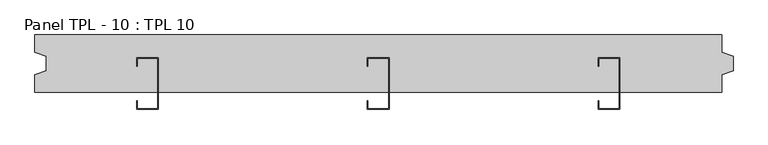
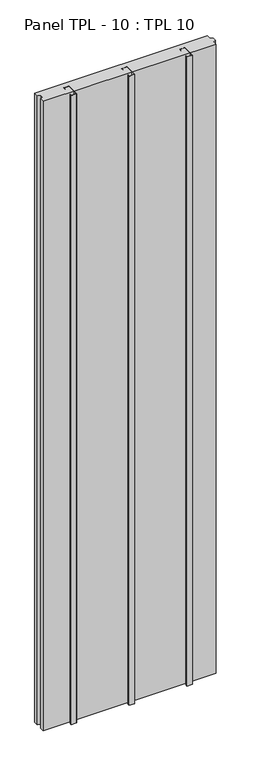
"""IFC4 building model written with IfcOpenShell, lengths in millimetres: plate geometry, Panel TPL - 10 : TPL 10."""

from ifc_helpers import new_model, si_unit, origin, origin_with_axes, place, context, project, spatial, polyline, outline, extrude, source, transform, mapped, element, save


def panel_tpl_10_tpl_10_1e8b654e(model_context):
    return source(origin(), model_context, "Body", "SweptSolid", [
        extrude(outline(polyline([(384.3300002, 10.0), (422.3300002, 10.0), (422.3300002, -80.0), (384.3300002, -80.0), (384.3300002, -65.0), (385.1800002, -65.0), (385.1800002, -79.15), (421.4800002, -79.15), (421.4800002, 9.15), (385.1800002, 9.15), (385.1800002, -5.0), (384.3300002, -5.0), (384.3300002, 10.0)])), origin_with_axes(), (0.0, 0.0, 1.0), 4618.8021535),
        extrude(outline(polyline([(-19.0, 10.0), (19.0, 10.0), (19.0, -80.0), (-19.0, -80.0), (-19.0, -65.0), (-18.15, -65.0), (-18.15, -79.15), (18.15, -79.15), (18.15, 9.15), (-18.15, 9.15), (-18.15, -5.0), (-19.0, -5.0), (-19.0, 10.0)])), origin_with_axes(), (0.0, 0.0, 1.0), 4618.8021535),
        extrude(outline(polyline([(-422.3300002, 10.0), (-384.3300002, 10.0), (-384.3300002, -80.0), (-422.3300002, -80.0), (-422.3300002, -65.0), (-421.4800002, -65.0), (-421.4800002, -79.15), (-385.1800002, -79.15), (-385.1800002, 9.15), (-421.4800002, 9.15), (-421.4800002, -5.0), (-422.3300002, -5.0), (-422.3300002, 10.0)])), origin_with_axes(), (0.0, 0.0, 1.0), 4618.8021535),
        extrude(outline(polyline([(-600.0000002, 50.0), (600.0000002, 50.0), (600.0000002, 20.0010038), (620.0000002, 12.5), (620.0000002, -12.5), (600.0000002, -20.0010038), (600.0000002, -50.0), (-600.0000002, -50.0), (-600.0000002, -20.0010038), (-580.0000002, -12.5), (-580.0000002, 12.5), (-600.0000002, 20.0010038), (-600.0000002, 50.0)])), origin_with_axes(), (0.0, 0.0, 1.0), 4618.8021535),
    ])


if __name__ == "__main__":
    model = new_model("IFC4")
    model_context = context("Model", 3, world=origin())
    ifc_project = project(units=[si_unit("LENGTHUNIT", "METRE", prefix="MILLI")], contexts=[model_context])
    site = spatial("IfcSite", under=ifc_project)
    building = spatial("IfcBuilding", under=site)
    placement = place(None, origin())
    panel_tpl_10_tpl_10_shape = panel_tpl_10_tpl_10_1e8b654e(model_context)
    element("IfcPlate", 1, ObjectType="Panel TPL - 10 : TPL 10", at=placement, inside=building, context=model_context, shape_type="MappedRepresentation", body=[
        mapped(panel_tpl_10_tpl_10_shape, transform((0.0, 0.0, 0.0), x_axis=(1.0, 0.0, 0.0), y_axis=(0.0, 1.0, 0.0), z_axis=(0.0, 0.0, 1.0))),
    ])
    save(model, "model.ifc")
